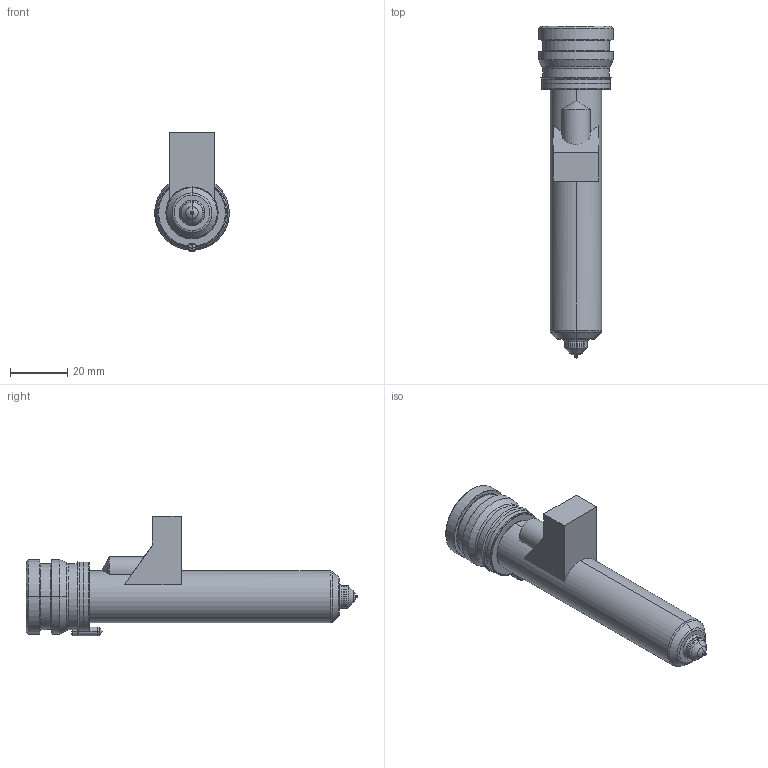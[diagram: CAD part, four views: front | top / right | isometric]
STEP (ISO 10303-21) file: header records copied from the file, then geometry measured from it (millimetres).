
FILE_DESCRIPTION((''),'2;1');
FILE_NAME('MPN-08-24-VX8-096-M','2026-02-05T13:31:01',('UPTIO'),('Thermoplay S.p.A.'),'CREO PARAMETRIC BY PTC INC, 2023494','CREO PARAMETRIC BY PTC INC, 2023494','');
FILE_SCHEMA(('CONFIG_CONTROL_DESIGN','SHAPE_APPEARANCE_LAYERS_GROUPS'));
Length unit declared in the file: millimetre
Products named in the file (1): MPN-08-24-VX8-096-M
Bounding box: 26 x 115.5 x 41.5 mm (x, y, z)
Volume: 22794.2 mm3; surface area: 29866.5 mm2
Topology: 2 solids, 3 shells, 529 faces, 1372 edges, 842 vertices
Faces by surface type: cylinder 174, plane 143, bspline 77, torus 60, cone 60, sphere 9, extrusion 6
Entity records: 27426 total; most frequent: CARTESIAN_POINT 11905, ORIENTED_EDGE 2726, DIRECTION 2495, EDGE_CURVE 1363, AXIS2_PLACEMENT_3D 975, VERTEX_POINT 842, EDGE_LOOP 559, VECTOR 545
